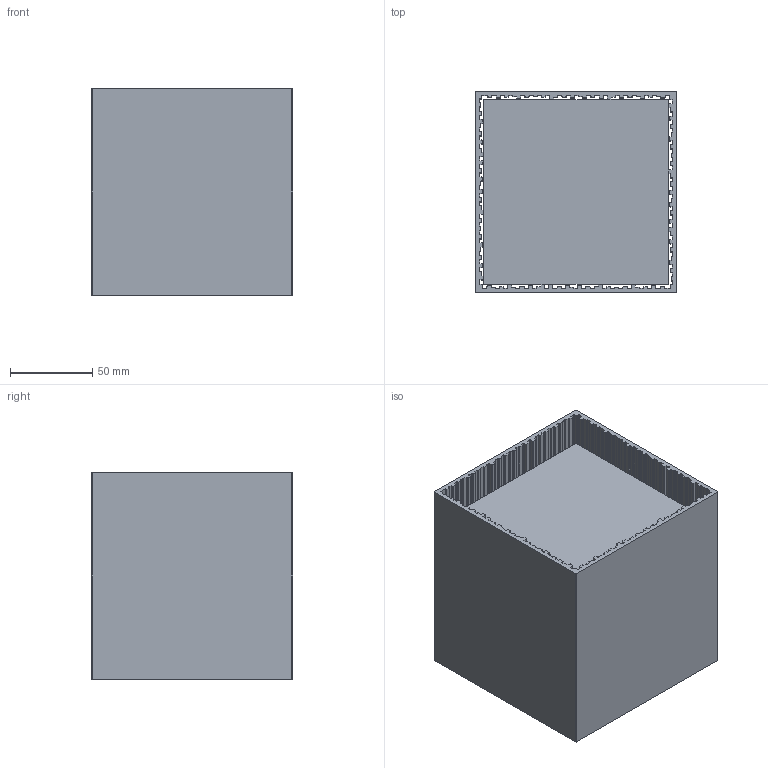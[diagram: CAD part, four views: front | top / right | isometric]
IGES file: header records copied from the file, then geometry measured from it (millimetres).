
Start section: SolidWorks IGES file using NURBS representation for surfaces
Global section: file name: Z:\Modele 3D_WWW\_KOLEKCJE_WWW\GROOVE-I-7792-7793\GROOVE-I-7792-7793.IGS; native system: SolidWorks 2021; preprocessor: SolidWorks 2021; author: gabriela.tworek; date: 211118.080958; units: millimetre
Bounding box: 122 x 122 x 125 mm (x, y, z)
Surface area: 225036.1 mm2 (no closed solid volume)
Topology: 0 solids, 0 shells, 1214 faces, 11305 edges, 11301 vertices
Faces by surface type: bspline 1214
